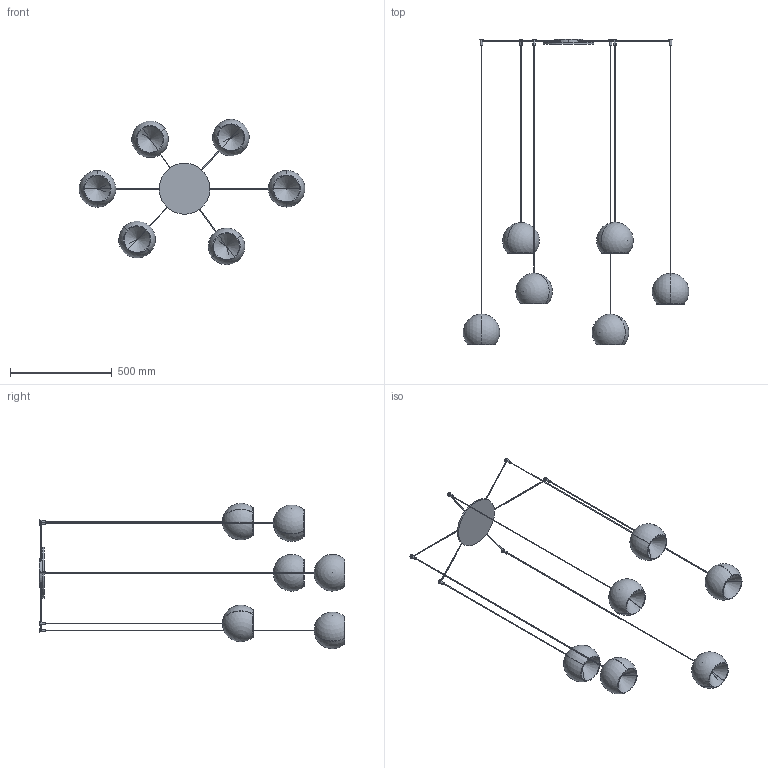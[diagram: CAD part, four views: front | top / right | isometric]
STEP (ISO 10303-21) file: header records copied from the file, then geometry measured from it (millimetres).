
FILE_DESCRIPTION (( 'STEP AP203' ), '1' );
FILE_NAME ('CHRA4-00-CHERRY_6 sospensione.STEP', '2025-05-06T06:17:25', ( '' ), ( '' ), 'SwSTEP 2.0', 'SolidWorks 2022', '' );
FILE_SCHEMA (( 'CONFIG_CONTROL_DESIGN' ));
Length unit declared in the file: millimetre
Products named in the file (5): CHERRY_Rosone_Cherry 6 (x 2000)<A macchina>; CHRA4-00-CHERRY_6 sospensione; CHERRY_Lampada singola_Cherry 180 | H=1500; CHERRY_Lampada singola_Cherry 180 | H=1950; CHERRY_Lampada singola_Cherry 180 | H=1700
Assembly tree (7 placements, depth 2):
  CHRA4-00-CHERRY_6 sospensione
    CHERRY_Rosone_Cherry 6 (x 2000)<A macchina>
    CHERRY_Lampada singola_Cherry 180 | H=1500  x2
    CHERRY_Lampada singola_Cherry 180 | H=1950  x2
    CHERRY_Lampada singola_Cherry 180 | H=1700  x2
Bounding box: 1108.5 x 1500 x 713.56 mm (x, y, z)
Volume: 1947867 mm3; surface area: 1487094.4 mm2
Topology: 31 solids, 31 shells, 229 faces, 544 edges, 342 vertices
Faces by surface type: cylinder 106, plane 75, sphere 24, cone 24
Entity records: 4237 total; most frequent: CARTESIAN_POINT 873, DIRECTION 638, ORIENTED_EDGE 524, AXIS2_PLACEMENT_3D 283, EDGE_CURVE 262, VERTEX_POINT 174, EDGE_LOOP 146, CIRCLE 140
